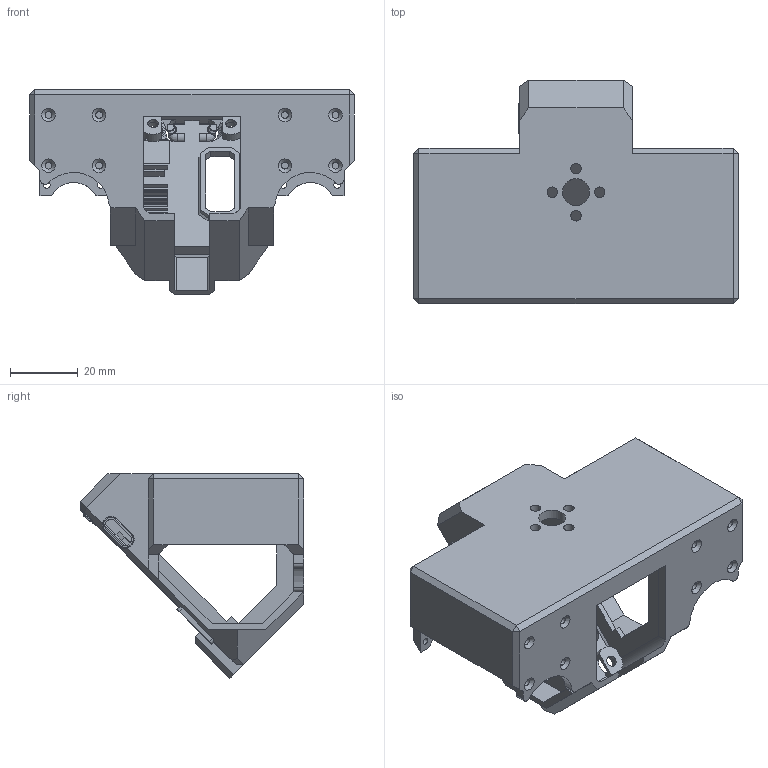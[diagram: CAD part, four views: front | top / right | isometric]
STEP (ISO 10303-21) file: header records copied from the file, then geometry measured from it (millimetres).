
FILE_DESCRIPTION(/* description */ (''),/* implementation_level */ '2;1');
FILE_NAME(/* name */ 'E:/云同步/我的坚果云/项目/SERVO DRIVER WITH ESP32/模型/G v5.step',/* time_stamp */ '2022-01-21T19:20:01+08:00',/* author */ (''),/* organization */ (''),/* preprocessor_version */ 'ST-DEVELOPER v18.1',/* originating_system */ 'Autodesk Translation Framework v10.10.0.1391',/* authorisation */ '');
FILE_SCHEMA (('AUTOMOTIVE_DESIGN { 1 0 10303 214 3 1 1 }'));
Length unit declared in the file: millimetre
Products named in the file (1): G
Bounding box: 96 x 66.19 x 60.59 mm (x, y, z)
Volume: 37818.2 mm3; surface area: 32850.3 mm2
Topology: 1 solids, 1 shells, 470 faces, 1345 edges, 854 vertices
Faces by surface type: plane 303, cylinder 99, cone 41, bspline 25, sphere 2
Full cylindrical faces by diameter (mm): 1.98 x6, 2 x12, 3.1 x4, 3.2 x4, 5.8 x4, 8 x1
Entity records: 15764 total; most frequent: CARTESIAN_POINT 3380, ORIENTED_EDGE 2688, DIRECTION 2441, EDGE_CURVE 1344, LINE 971, VECTOR 971, VERTEX_POINT 854, AXIS2_PLACEMENT_3D 735
